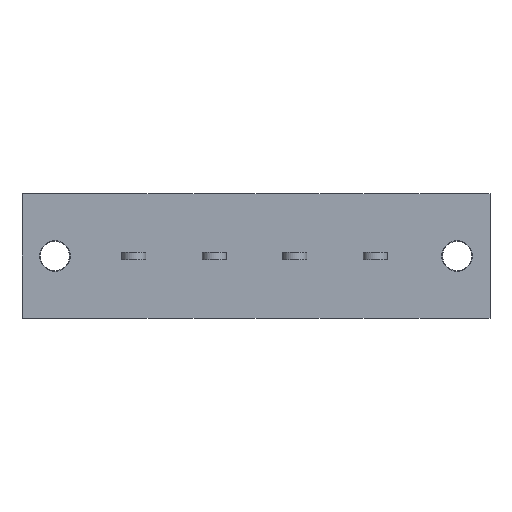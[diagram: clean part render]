
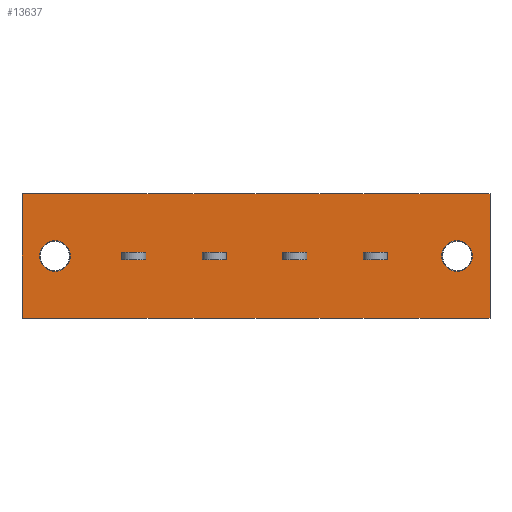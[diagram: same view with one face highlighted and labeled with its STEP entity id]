
A CAD part, front view. The second image highlights one B-rep face of the part: STEP entity #13637.
In plain terms, the highlighted planar face has unit normal (0, -1, 0).
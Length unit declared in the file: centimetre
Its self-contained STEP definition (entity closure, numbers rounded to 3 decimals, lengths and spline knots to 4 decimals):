
#931=VECTOR('',#14771,1.);
#1422=VECTOR('',#15570,1.);
#1591=VECTOR('',#16013,1.);
#1595=VECTOR('',#16020,1.);
#1605=VECTOR('',#16048,1.);
#1608=VECTOR('',#16060,1.);
#1726=VECTOR('',#16374,1.);
#1730=VECTOR('',#16381,1.);
#1740=VECTOR('',#16409,1.);
#1743=VECTOR('',#16421,1.);
#1861=VECTOR('',#16735,1.);
#1865=VECTOR('',#16742,1.);
#1875=VECTOR('',#16770,1.);
#1878=VECTOR('',#16782,1.);
#1945=VECTOR('',#16907,1.);
#1946=VECTOR('',#16908,1.);
#1947=VECTOR('',#16909,1.);
#1948=VECTOR('',#16910,1.);
#1949=VECTOR('',#16911,1.);
#1950=VECTOR('',#16912,1.);
#2408=LINE('',#18564,#931);
#2899=LINE('',#20403,#1422);
#3068=LINE('',#20958,#1591);
#3072=LINE('',#20969,#1595);
#3082=LINE('',#21000,#1605);
#3085=LINE('',#21011,#1608);
#3203=LINE('',#21412,#1726);
#3207=LINE('',#21423,#1730);
#3217=LINE('',#21454,#1740);
#3220=LINE('',#21465,#1743);
#3338=LINE('',#21866,#1861);
#3342=LINE('',#21877,#1865);
#3352=LINE('',#21908,#1875);
#3355=LINE('',#21919,#1878);
#3422=LINE('',#22081,#1945);
#3423=LINE('',#22084,#1946);
#3424=LINE('',#22086,#1947);
#3425=LINE('',#22088,#1948);
#3426=LINE('',#22089,#1949);
#3427=LINE('',#22090,#1950);
#3909=VERTEX_POINT('',#18565);
#3910=VERTEX_POINT('',#18566);
#3921=VERTEX_POINT('',#18590);
#4356=VERTEX_POINT('',#20404);
#4357=VERTEX_POINT('',#20405);
#4368=VERTEX_POINT('',#20429);
#4539=VERTEX_POINT('',#20959);
#4540=VERTEX_POINT('',#20960);
#4544=VERTEX_POINT('',#20970);
#4554=VERTEX_POINT('',#21001);
#4679=VERTEX_POINT('',#21413);
#4680=VERTEX_POINT('',#21414);
#4684=VERTEX_POINT('',#21424);
#4694=VERTEX_POINT('',#21455);
#4819=VERTEX_POINT('',#21867);
#4820=VERTEX_POINT('',#21868);
#4824=VERTEX_POINT('',#21878);
#4834=VERTEX_POINT('',#21909);
#4894=VERTEX_POINT('',#22082);
#4895=VERTEX_POINT('',#22083);
#4896=VERTEX_POINT('',#22085);
#4897=VERTEX_POINT('',#22087);
#4919=CIRCLE('',#22337,0.21);
#4962=CIRCLE('',#22574,0.21);
#5698=EDGE_CURVE('',#3909,#3910,#2408,.T.);
#5710=EDGE_CURVE('',#3921,#3921,#4919,.T.);
#6353=EDGE_CURVE('',#4356,#4357,#2899,.T.);
#6365=EDGE_CURVE('',#4368,#4368,#4962,.T.);
#6614=EDGE_CURVE('',#4539,#4540,#3068,.T.);
#6619=EDGE_CURVE('',#4544,#4539,#3072,.T.);
#6634=EDGE_CURVE('',#4540,#4554,#3082,.T.);
#6639=EDGE_CURVE('',#4554,#4544,#3085,.T.);
#6822=EDGE_CURVE('',#4679,#4680,#3203,.T.);
#6827=EDGE_CURVE('',#4684,#4679,#3207,.T.);
#6842=EDGE_CURVE('',#4680,#4694,#3217,.T.);
#6847=EDGE_CURVE('',#4694,#4684,#3220,.T.);
#7030=EDGE_CURVE('',#4819,#4820,#3338,.T.);
#7035=EDGE_CURVE('',#4824,#4819,#3342,.T.);
#7050=EDGE_CURVE('',#4820,#4834,#3352,.T.);
#7055=EDGE_CURVE('',#4834,#4824,#3355,.T.);
#7138=EDGE_CURVE('',#4894,#4895,#3422,.T.);
#7139=EDGE_CURVE('',#4896,#4894,#3423,.T.);
#7140=EDGE_CURVE('',#4897,#4896,#3424,.T.);
#7141=EDGE_CURVE('',#4895,#4897,#3425,.T.);
#7142=EDGE_CURVE('',#4357,#3909,#3426,.T.);
#7143=EDGE_CURVE('',#3910,#4356,#3427,.T.);
#11017=ORIENTED_EDGE('',*,*,#5710,.T.);
#11018=ORIENTED_EDGE('',*,*,#6365,.T.);
#11019=ORIENTED_EDGE('',*,*,#7138,.F.);
#11020=ORIENTED_EDGE('',*,*,#7139,.F.);
#11021=ORIENTED_EDGE('',*,*,#7140,.F.);
#11022=ORIENTED_EDGE('',*,*,#7141,.F.);
#11023=ORIENTED_EDGE('',*,*,#6619,.T.);
#11024=ORIENTED_EDGE('',*,*,#6614,.T.);
#11025=ORIENTED_EDGE('',*,*,#6634,.T.);
#11026=ORIENTED_EDGE('',*,*,#6639,.T.);
#11027=ORIENTED_EDGE('',*,*,#6827,.T.);
#11028=ORIENTED_EDGE('',*,*,#6822,.T.);
#11029=ORIENTED_EDGE('',*,*,#6842,.T.);
#11030=ORIENTED_EDGE('',*,*,#6847,.T.);
#11031=ORIENTED_EDGE('',*,*,#7035,.T.);
#11032=ORIENTED_EDGE('',*,*,#7030,.T.);
#11033=ORIENTED_EDGE('',*,*,#7050,.T.);
#11034=ORIENTED_EDGE('',*,*,#7055,.T.);
#11035=ORIENTED_EDGE('',*,*,#7142,.T.);
#11036=ORIENTED_EDGE('',*,*,#5698,.T.);
#11037=ORIENTED_EDGE('',*,*,#7143,.T.);
#11038=ORIENTED_EDGE('',*,*,#6353,.T.);
#12031=EDGE_LOOP('',(#11017));
#12032=EDGE_LOOP('',(#11018));
#12033=EDGE_LOOP('',(#11019,#11020,#11021,#11022));
#12034=EDGE_LOOP('',(#11023,#11024,#11025,#11026));
#12035=EDGE_LOOP('',(#11027,#11028,#11029,#11030));
#12036=EDGE_LOOP('',(#11031,#11032,#11033,#11034));
#12037=EDGE_LOOP('',(#11035,#11036,#11037,#11038));
#12879=FACE_BOUND('',#12031,.T.);
#12880=FACE_BOUND('',#12032,.T.);
#12881=FACE_BOUND('',#12033,.T.);
#12882=FACE_BOUND('',#12034,.T.);
#12883=FACE_BOUND('',#12035,.T.);
#12884=FACE_BOUND('',#12036,.T.);
#12885=FACE_BOUND('',#12037,.T.);
#13637=ADVANCED_FACE('',(#12879,#12880,#12881,#12882,#12883,#12884,#12885),
#14154,.T.);
#14154=PLANE('',#23065);
#14771=DIRECTION('',(0.,0.,1.));
#14789=DIRECTION('',(0.,1.,0.));
#14790=DIRECTION('',(0.21,0.,0.));
#15570=DIRECTION('',(0.,0.,-1.));
#15588=DIRECTION('',(0.,1.,0.));
#15589=DIRECTION('',(-0.21,0.,0.));
#16013=DIRECTION('',(0.,0.,-1.));
#16020=DIRECTION('',(1.,0.,0.));
#16048=DIRECTION('',(-1.,0.,0.));
#16060=DIRECTION('',(0.,0.,1.));
#16374=DIRECTION('',(0.,0.,-1.));
#16381=DIRECTION('',(1.,0.,0.));
#16409=DIRECTION('',(-1.,0.,0.));
#16421=DIRECTION('',(0.,0.,1.));
#16735=DIRECTION('',(0.,0.,-1.));
#16742=DIRECTION('',(1.,0.,0.));
#16770=DIRECTION('',(-1.,0.,0.));
#16782=DIRECTION('',(0.,0.,1.));
#16906=DIRECTION('',(0.,-1.,0.));
#16907=DIRECTION('',(-1.,0.,0.));
#16908=DIRECTION('',(0.,0.,1.));
#16909=DIRECTION('',(1.,0.,0.));
#16910=DIRECTION('',(0.,0.,-1.));
#16911=DIRECTION('',(1.,0.,0.));
#16912=DIRECTION('',(-1.,0.,0.));
#18564=CARTESIAN_POINT('',(4.4,0.,0.85));
#18565=CARTESIAN_POINT('',(4.4,0.,-0.85));
#18566=CARTESIAN_POINT('',(4.4,0.,0.85));
#18589=CARTESIAN_POINT('',(3.95,0.,0.));
#18590=CARTESIAN_POINT('',(3.74,0.,0.));
#20403=CARTESIAN_POINT('',(-2.,0.,-0.85));
#20404=CARTESIAN_POINT('',(-2.,0.,0.85));
#20405=CARTESIAN_POINT('',(-2.,0.,-0.85));
#20428=CARTESIAN_POINT('',(-1.55,0.,0.));
#20429=CARTESIAN_POINT('',(-1.34,0.,0.));
#20958=CARTESIAN_POINT('',(2.995,0.,0.));
#20959=CARTESIAN_POINT('',(2.995,0.,0.05));
#20960=CARTESIAN_POINT('',(2.995,0.,-0.05));
#20969=CARTESIAN_POINT('',(1.415,0.,0.05));
#20970=CARTESIAN_POINT('',(2.665,0.,0.05));
#21000=CARTESIAN_POINT('',(1.415,0.,-0.05));
#21001=CARTESIAN_POINT('',(2.665,0.,-0.05));
#21011=CARTESIAN_POINT('',(2.665,0.,0.));
#21412=CARTESIAN_POINT('',(1.895,0.,0.));
#21413=CARTESIAN_POINT('',(1.895,0.,0.05));
#21414=CARTESIAN_POINT('',(1.895,0.,-0.05));
#21423=CARTESIAN_POINT('',(0.865,0.,0.05));
#21424=CARTESIAN_POINT('',(1.565,0.,0.05));
#21454=CARTESIAN_POINT('',(0.865,0.,-0.05));
#21455=CARTESIAN_POINT('',(1.565,0.,-0.05));
#21465=CARTESIAN_POINT('',(1.565,0.,0.));
#21866=CARTESIAN_POINT('',(0.795,0.,0.));
#21867=CARTESIAN_POINT('',(0.795,0.,0.05));
#21868=CARTESIAN_POINT('',(0.795,0.,-0.05));
#21877=CARTESIAN_POINT('',(0.315,0.,0.05));
#21878=CARTESIAN_POINT('',(0.465,0.,0.05));
#21908=CARTESIAN_POINT('',(0.315,0.,-0.05));
#21909=CARTESIAN_POINT('',(0.465,0.,-0.05));
#21919=CARTESIAN_POINT('',(0.465,0.,0.));
#22080=CARTESIAN_POINT('',(0.,0.,0.));
#22081=CARTESIAN_POINT('',(-0.685,0.,0.05));
#22082=CARTESIAN_POINT('',(-0.305,0.,0.05));
#22083=CARTESIAN_POINT('',(-0.635,0.,0.05));
#22084=CARTESIAN_POINT('',(-0.305,0.,0.));
#22085=CARTESIAN_POINT('',(-0.305,0.,-0.05));
#22086=CARTESIAN_POINT('',(-0.685,0.,-0.05));
#22087=CARTESIAN_POINT('',(-0.635,0.,-0.05));
#22088=CARTESIAN_POINT('',(-0.635,0.,0.));
#22089=CARTESIAN_POINT('',(0.,0.,-0.85));
#22090=CARTESIAN_POINT('',(-1.1,0.,0.85));
#22337=AXIS2_PLACEMENT_3D('',#18589,#14789,#14790);
#22574=AXIS2_PLACEMENT_3D('',#20428,#15588,#15589);
#23065=AXIS2_PLACEMENT_3D('',#22080,#16906,$);
